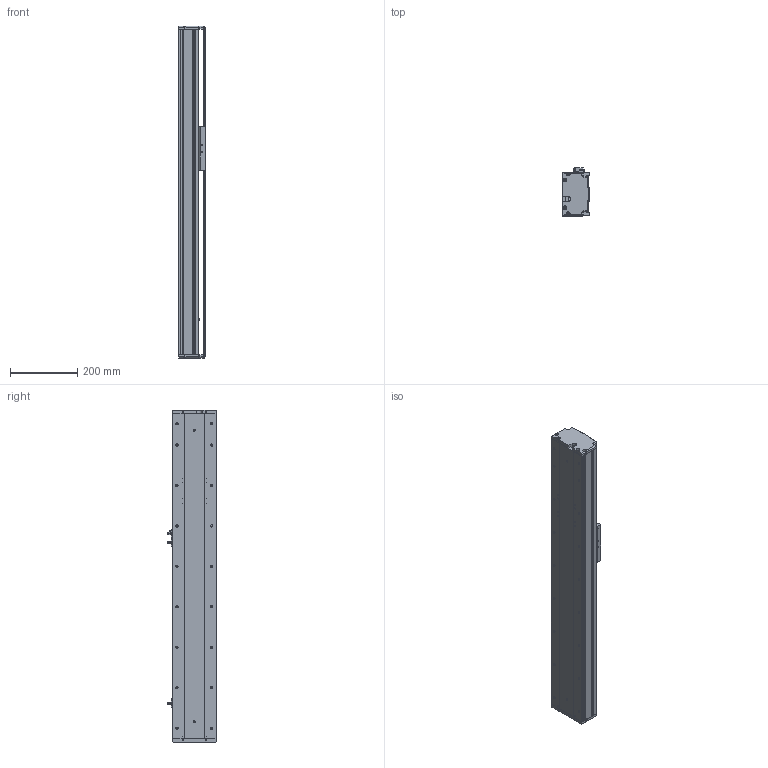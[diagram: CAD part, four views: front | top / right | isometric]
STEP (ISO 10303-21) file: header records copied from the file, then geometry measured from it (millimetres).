
FILE_DESCRIPTION (( 'STEP AP214' ), '1' );
FILE_NAME ('KSD130S-P2010-S500-M-CM.STEP', '2019-09-10T06:43:05', ( '微软用户' ), ( '微软中国' ), 'SwSTEP 2.0', 'SolidWorks 2014', '' );
FILE_SCHEMA (( 'AUTOMOTIVE_DESIGN' ));
Length unit declared in the file: millimetre
Products named in the file (8): 130宽滚珠丝杆安装板半封闭-内装-20丝杆; 130宽端盖半封闭-内装; 130宽底板半封闭丝杠内装-500行程; KSD130S-P2010-S500-M-CM; 130宽马达安装板半封闭-内装; U倰嫖萇EEㄜSX672; 覜茼え100遵圉猾敕; 130宽盖板半封闭丝杠内装-500行程
Assembly tree (9 placements, depth 2):
  KSD130S-P2010-S500-M-CM
    130宽底板半封闭丝杠内装-500行程
    130宽端盖半封闭-内装
    130宽滚珠丝杆安装板半封闭-内装-20丝杆
    130宽盖板半封闭丝杠内装-500行程
    覜茼え100遵圉猾敕
    U倰嫖萇EEㄜSX672  x3
    130宽马达安装板半封闭-内装
Bounding box: 80 x 143.7 x 985 mm (x, y, z)
Volume: 3039906.6 mm3; surface area: 927336.3 mm2
Topology: 9 solids, 9 shells, 1067 faces, 3104 edges, 1978 vertices
Faces by surface type: cylinder 478, plane 447, cone 142
Entity records: 34422 total; most frequent: CARTESIAN_POINT 6667, DIRECTION 4998, ORIENTED_EDGE 4920, EDGE_CURVE 2460, AXIS2_PLACEMENT_3D 1813, VERTEX_POINT 1602, LINE 1372, VECTOR 1372
